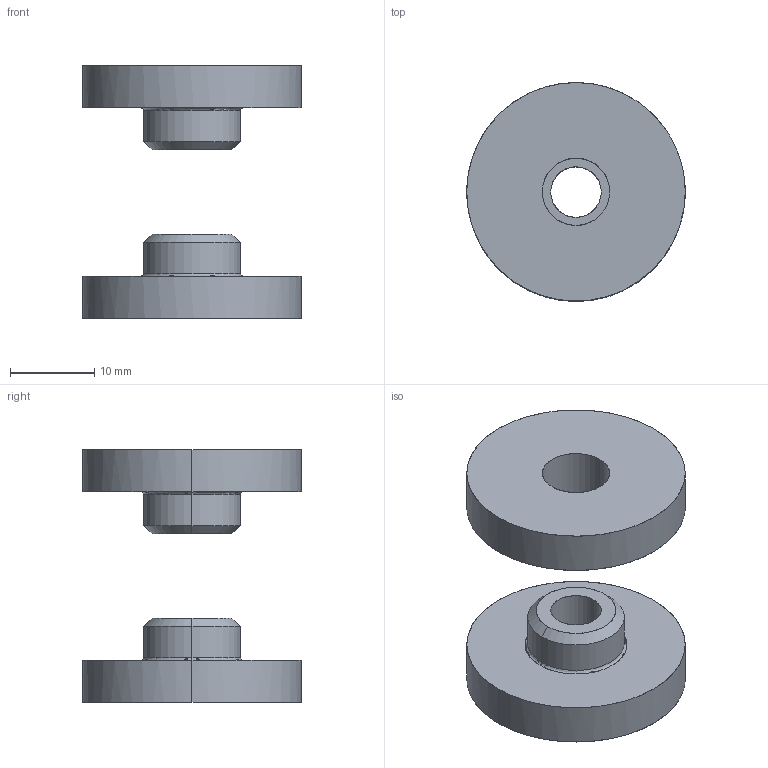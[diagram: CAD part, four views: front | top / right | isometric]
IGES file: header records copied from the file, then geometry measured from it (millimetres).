
Global section: file name: E:\UnigraphicsGraphicData\MISUMI_PRESS-PARTS\IGES\3d_wunt25_00803_r00.igs; native system: NX V5.0; preprocessor: UGS NX IGES V5.0; author: MISUMI; date: 20110105.163520; units: millimetre
Bounding box: 26 x 26 x 30 mm (x, y, z)
Surface area: 3530 mm2 (no closed solid volume)
Topology: 0 solids, 0 shells, 26 faces, 208 edges, 208 vertices
Faces by surface type: bspline 26
